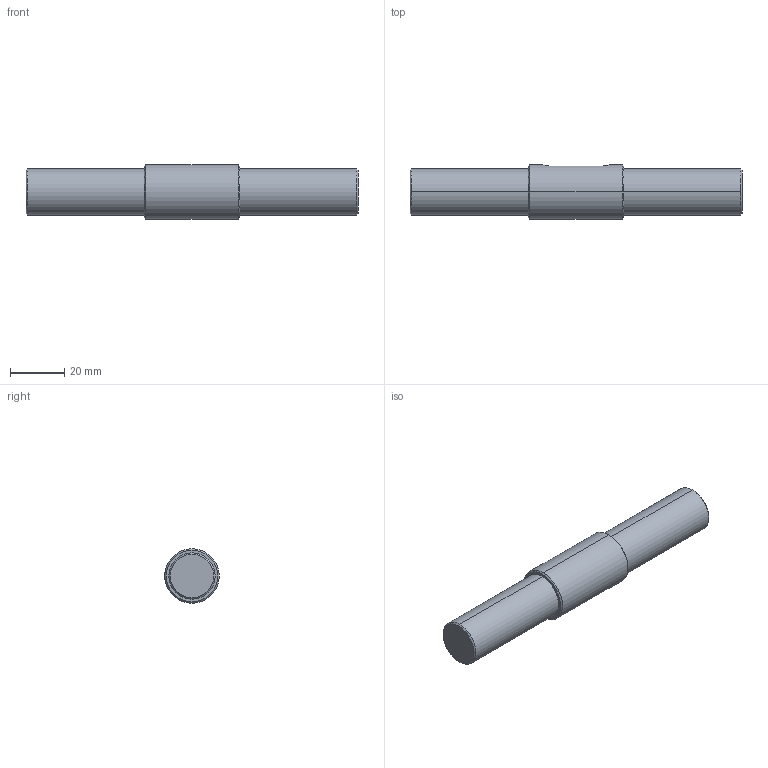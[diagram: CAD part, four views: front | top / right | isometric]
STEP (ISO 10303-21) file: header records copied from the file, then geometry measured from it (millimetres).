
FILE_DESCRIPTION (( 'STEP AP214' ), '1' );
FILE_NAME ('1.8042 Akseli D20_17 L122 kiila 6x25.STEP', '2024-03-15T07:32:50', ( '' ), ( '' ), 'SwSTEP 2.0', 'SolidWorks 2024', '' );
FILE_SCHEMA (( 'AUTOMOTIVE_DESIGN' ));
Length unit declared in the file: millimetre
Products named in the file (1): 1.8042 Akseli D20_17 L122 kiila 6x25
Bounding box: 122 x 20 x 20 mm (x, y, z)
Volume: 30236.9 mm3; surface area: 7579.5 mm2
Topology: 1 solids, 1 shells, 23 faces, 46 edges, 28 vertices
Faces by surface type: cone 8, cylinder 8, plane 7
Entity records: 675 total; most frequent: CARTESIAN_POINT 156, DIRECTION 114, ORIENTED_EDGE 92, AXIS2_PLACEMENT_3D 46, EDGE_CURVE 46, VERTEX_POINT 28, EDGE_LOOP 26, ADVANCED_FACE 23
